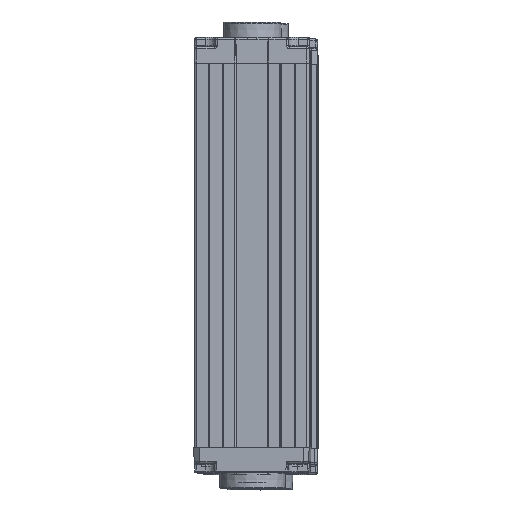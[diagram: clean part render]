
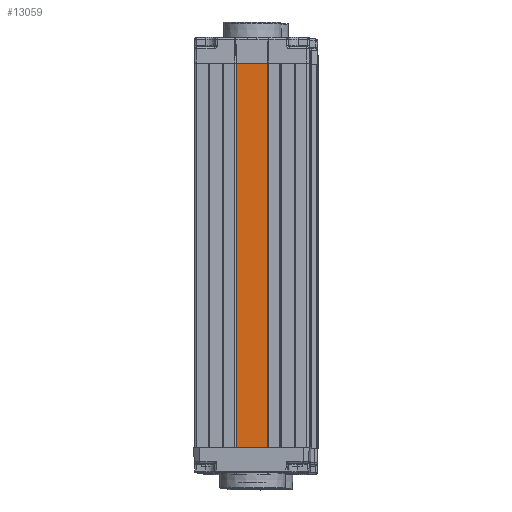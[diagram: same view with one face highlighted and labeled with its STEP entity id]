
A CAD part, top view. The second image highlights one B-rep face of the part: STEP entity #13059.
In plain terms, the highlighted planar face has unit normal (-0.009, 0, 1) as drawn and (0, 0, 1) by its records, which use the part's own axes.
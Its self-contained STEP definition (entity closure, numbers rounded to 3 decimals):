
#838 = EDGE_CURVE ( 'NONE', #1130, #15188, #2643, .T. ) ;
#1130 = VERTEX_POINT ( 'NONE', #7700 ) ;
#1585 = CARTESIAN_POINT ( 'NONE',  ( 4.1, 0., 4.6 ) ) ;
#2643 = LINE ( 'NONE', #8197, #12947 ) ;
#3232 = LINE ( 'NONE', #8779, #5657 ) ;
#3606 = DIRECTION ( 'NONE',  ( -1., 0., 0. ) ) ;
#3984 = EDGE_CURVE ( 'NONE', #17716, #15188, #3232, .T. ) ;
#4245 = DIRECTION ( 'NONE',  ( 0., -1., 0. ) ) ;
#4973 = PLANE ( 'NONE',  #10260 ) ;
#5547 = CARTESIAN_POINT ( 'NONE',  ( 4.1, 100., 4.6 ) ) ;
#5657 = VECTOR ( 'NONE', #14328, 1000. ) ;
#6081 = EDGE_CURVE ( 'NONE', #9004, #1130, #11151, .T. ) ;
#6802 = LINE ( 'NONE', #12340, #8729 ) ;
#7700 = CARTESIAN_POINT ( 'NONE',  ( -4.1, 0., 4.6 ) ) ;
#8197 = CARTESIAN_POINT ( 'NONE',  ( -4.1, 0., 4.6 ) ) ;
#8326 = ORIENTED_EDGE ( 'NONE', *, *, #6081, .T. ) ;
#8729 = VECTOR ( 'NONE', #17883, 1000. ) ;
#8779 = CARTESIAN_POINT ( 'NONE',  ( 4.1, 100., 4.6 ) ) ;
#9004 = VERTEX_POINT ( 'NONE', #12392 ) ;
#9011 = ORIENTED_EDGE ( 'NONE', *, *, #10704, .F. ) ;
#9235 = VECTOR ( 'NONE', #4245, 1000. ) ;
#9255 = ORIENTED_EDGE ( 'NONE', *, *, #838, .T. ) ;
#9489 = EDGE_LOOP ( 'NONE', ( #9255, #15693, #9011, #8326 ) ) ;
#10260 = AXIS2_PLACEMENT_3D ( 'NONE', #10504, #16063, #3606 ) ;
#10504 = CARTESIAN_POINT ( 'NONE',  ( -4.1, 100., 4.6 ) ) ;
#10704 = EDGE_CURVE ( 'NONE', #9004, #17716, #6802, .T. ) ;
#11151 = LINE ( 'NONE', #16697, #9235 ) ;
#12340 = CARTESIAN_POINT ( 'NONE',  ( -4.1, 100., 4.6 ) ) ;
#12392 = CARTESIAN_POINT ( 'NONE',  ( -4.1, 100., 4.6 ) ) ;
#12947 = VECTOR ( 'NONE', #13745, 1000. ) ;
#13059 = ADVANCED_FACE ( 'NONE', ( #17425 ), #4973, .F. ) ;
#13745 = DIRECTION ( 'NONE',  ( 1., 0., 0. ) ) ;
#14328 = DIRECTION ( 'NONE',  ( 0., -1., 0. ) ) ;
#15188 = VERTEX_POINT ( 'NONE', #1585 ) ;
#15693 = ORIENTED_EDGE ( 'NONE', *, *, #3984, .F. ) ;
#16063 = DIRECTION ( 'NONE',  ( 0., 0., -1. ) ) ;
#16697 = CARTESIAN_POINT ( 'NONE',  ( -4.1, 100., 4.6 ) ) ;
#17425 = FACE_OUTER_BOUND ( 'NONE', #9489, .T. ) ;
#17716 = VERTEX_POINT ( 'NONE', #5547 ) ;
#17883 = DIRECTION ( 'NONE',  ( 1., 0., 0. ) ) ;
